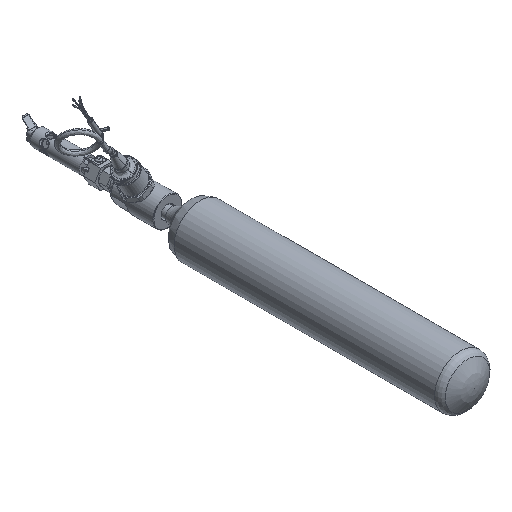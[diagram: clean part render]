
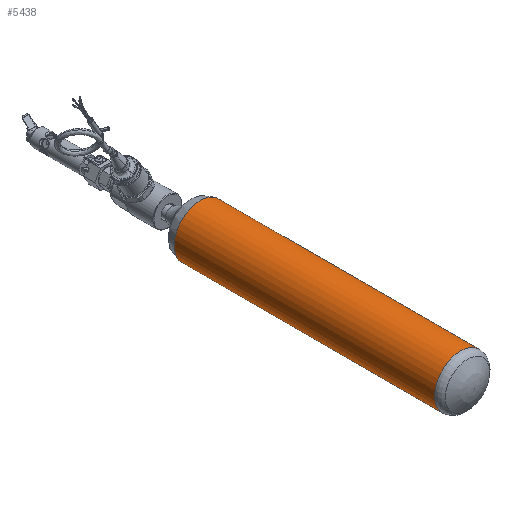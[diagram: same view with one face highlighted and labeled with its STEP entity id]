
A CAD part, isometric view. The second image highlights one B-rep face of the part: STEP entity #5438.
In plain terms, the highlighted cylindrical face has radius 25.4 mm (diameter 50.8 mm), a full revolution.
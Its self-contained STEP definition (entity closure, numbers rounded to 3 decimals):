
#530=CYLINDRICAL_SURFACE('',#5826,25.4);
#738=CIRCLE('',#5822,25.4);
#741=CIRCLE('',#5825,25.4);
#742=CIRCLE('',#5827,25.4);
#743=CIRCLE('',#5828,25.4);
#1035=FACE_OUTER_BOUND('',#1353,.T.);
#1353=EDGE_LOOP('',(#4724,#4725,#4726,#4727,#4728,#4729));
#1617=LINE('',#17675,#1877);
#1877=VECTOR('',#6824,25.4);
#2381=VERTEX_POINT('',#17663);
#2382=VERTEX_POINT('',#17664);
#2384=VERTEX_POINT('',#17671);
#2385=VERTEX_POINT('',#17672);
#3163=EDGE_CURVE('',#2381,#2382,#738,.T.);
#3166=EDGE_CURVE('',#2382,#2381,#741,.T.);
#3167=EDGE_CURVE('',#2384,#2385,#742,.T.);
#3168=EDGE_CURVE('',#2385,#2384,#743,.T.);
#3169=EDGE_CURVE('',#2385,#2382,#1617,.T.);
#4724=ORIENTED_EDGE('',*,*,#3167,.F.);
#4725=ORIENTED_EDGE('',*,*,#3168,.F.);
#4726=ORIENTED_EDGE('',*,*,#3169,.T.);
#4727=ORIENTED_EDGE('',*,*,#3166,.T.);
#4728=ORIENTED_EDGE('',*,*,#3163,.T.);
#4729=ORIENTED_EDGE('',*,*,#3169,.F.);
#5438=ADVANCED_FACE('',(#1035),#530,.T.);
#5822=AXIS2_PLACEMENT_3D('',#17665,#6810,#6811);
#5825=AXIS2_PLACEMENT_3D('',#17669,#6816,#6817);
#5826=AXIS2_PLACEMENT_3D('',#17670,#6818,#6819);
#5827=AXIS2_PLACEMENT_3D('',#17673,#6820,#6821);
#5828=AXIS2_PLACEMENT_3D('',#17674,#6822,#6823);
#6810=DIRECTION('center_axis',(0.,1.,0.));
#6811=DIRECTION('ref_axis',(1.,0.,0.));
#6816=DIRECTION('center_axis',(0.,1.,0.));
#6817=DIRECTION('ref_axis',(1.,0.,0.));
#6818=DIRECTION('center_axis',(0.,1.,0.));
#6819=DIRECTION('ref_axis',(-1.,0.,0.));
#6820=DIRECTION('center_axis',(0.,1.,0.));
#6821=DIRECTION('ref_axis',(1.,0.,0.));
#6822=DIRECTION('center_axis',(0.,1.,0.));
#6823=DIRECTION('ref_axis',(1.,0.,0.));
#6824=DIRECTION('',(0.,-1.,0.));
#17663=CARTESIAN_POINT('',(0.,13.144,-25.4));
#17664=CARTESIAN_POINT('',(25.4,13.144,0.));
#17665=CARTESIAN_POINT('Origin',(0.,13.144,0.));
#17669=CARTESIAN_POINT('Origin',(0.,13.144,0.));
#17670=CARTESIAN_POINT('Origin',(0.,251.229,
0.));
#17671=CARTESIAN_POINT('',(0.,267.386,-25.4));
#17672=CARTESIAN_POINT('',(25.4,267.386,0.));
#17673=CARTESIAN_POINT('Origin',(0.,267.386,
0.));
#17674=CARTESIAN_POINT('Origin',(0.,267.386,
0.));
#17675=CARTESIAN_POINT('',(25.4,251.229,0.));
